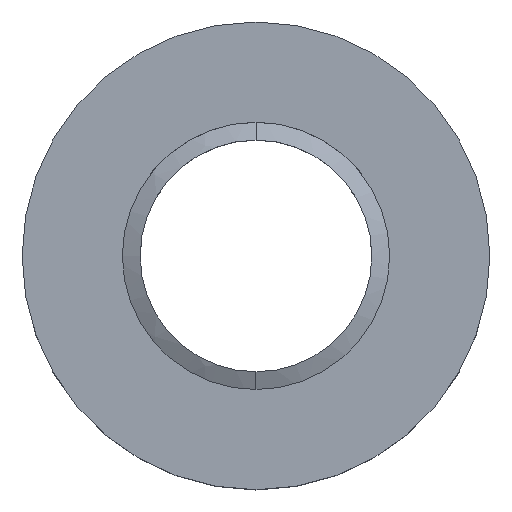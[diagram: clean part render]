
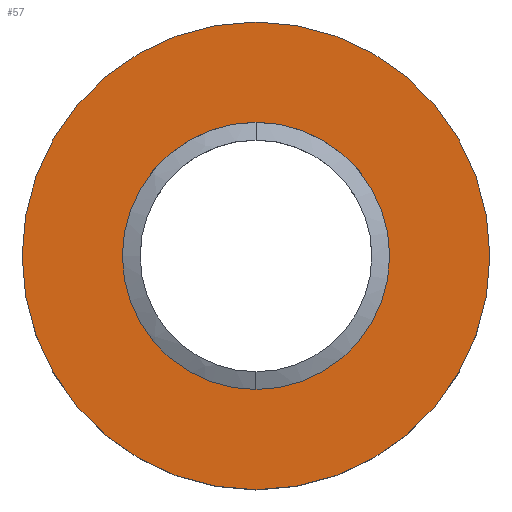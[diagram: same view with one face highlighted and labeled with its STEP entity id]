
A CAD part, top view. The second image highlights one B-rep face of the part: STEP entity #57.
In plain terms, the highlighted planar face has unit normal (0, 0, 1).
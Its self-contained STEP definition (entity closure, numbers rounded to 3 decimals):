
#23 = EDGE_CURVE ( 'NONE', #163, #209, #278, .T. ) ;
#27 = ORIENTED_EDGE ( 'NONE', *, *, #117, .F. ) ;
#51 = EDGE_LOOP ( 'NONE', ( #133, #276 ) ) ;
#57 = ADVANCED_FACE ( 'NONE', ( #479, #480 ), #481, .F. ) ;
#60 = VERTEX_POINT ( 'NONE', #493 ) ;
#67 = EDGE_LOOP ( 'NONE', ( #27, #171 ) ) ;
#111 = EDGE_CURVE ( 'NONE', #209, #163, #400, .T. ) ;
#117 = EDGE_CURVE ( 'NONE', #459, #60, #439, .T. ) ;
#133 = ORIENTED_EDGE ( 'NONE', *, *, #23, .T. ) ;
#161 = EDGE_CURVE ( 'NONE', #60, #459, #377, .T. ) ;
#163 = VERTEX_POINT ( 'NONE', #393 ) ;
#171 = ORIENTED_EDGE ( 'NONE', *, *, #161, .F. ) ;
#209 = VERTEX_POINT ( 'NONE', #468 ) ;
#276 = ORIENTED_EDGE ( 'NONE', *, *, #111, .T. ) ;
#278 = CIRCLE ( 'NONE', #279, 5.25 ) ;
#279 = AXIS2_PLACEMENT_3D ( 'NONE', #280, #281, #282 ) ;
#280 = CARTESIAN_POINT ( 'NONE',  ( 0., 0., 0. ) ) ;
#281 = DIRECTION ( 'NONE',  ( 0., 0., 1. ) ) ;
#282 = DIRECTION ( 'NONE',  ( 1., 0., 0. ) ) ;
#288 = CARTESIAN_POINT ( 'NONE',  ( 3., 0., 0. ) ) ;
#377 = CIRCLE ( 'NONE', #378, 3. ) ;
#378 = AXIS2_PLACEMENT_3D ( 'NONE', #379, #380, #381 ) ;
#379 = CARTESIAN_POINT ( 'NONE',  ( 0., 0., 0. ) ) ;
#380 = DIRECTION ( 'NONE',  ( 0., 0., 1. ) ) ;
#381 = DIRECTION ( 'NONE',  ( 1., 0., 0. ) ) ;
#393 = CARTESIAN_POINT ( 'NONE',  ( 5.25, 0., 0. ) ) ;
#400 = CIRCLE ( 'NONE', #401, 5.25 ) ;
#401 = AXIS2_PLACEMENT_3D ( 'NONE', #402, #403, #404 ) ;
#402 = CARTESIAN_POINT ( 'NONE',  ( 0., 0., 0. ) ) ;
#403 = DIRECTION ( 'NONE',  ( 0., 0., 1. ) ) ;
#404 = DIRECTION ( 'NONE',  ( 1., 0., 0. ) ) ;
#439 = CIRCLE ( 'NONE', #440, 3. ) ;
#440 = AXIS2_PLACEMENT_3D ( 'NONE', #441, #442, #443 ) ;
#441 = CARTESIAN_POINT ( 'NONE',  ( 0., 0., 0. ) ) ;
#442 = DIRECTION ( 'NONE',  ( 0., 0., 1. ) ) ;
#443 = DIRECTION ( 'NONE',  ( 1., 0., 0. ) ) ;
#459 = VERTEX_POINT ( 'NONE', #288 ) ;
#468 = CARTESIAN_POINT ( 'NONE',  ( -5.25, 0., 0. ) ) ;
#479 = FACE_BOUND ( 'NONE', #67, .T. ) ;
#480 = FACE_OUTER_BOUND ( 'NONE', #51, .T. ) ;
#481 = PLANE ( 'NONE',  #482 ) ;
#482 = AXIS2_PLACEMENT_3D ( 'NONE', #483, #484, #485 ) ;
#483 = CARTESIAN_POINT ( 'NONE',  ( 0., 3., 0. ) ) ;
#484 = DIRECTION ( 'NONE',  ( 0., 0., -1. ) ) ;
#485 = DIRECTION ( 'NONE',  ( -1., 0., 0. ) ) ;
#493 = CARTESIAN_POINT ( 'NONE',  ( -3., 0., 0. ) ) ;
